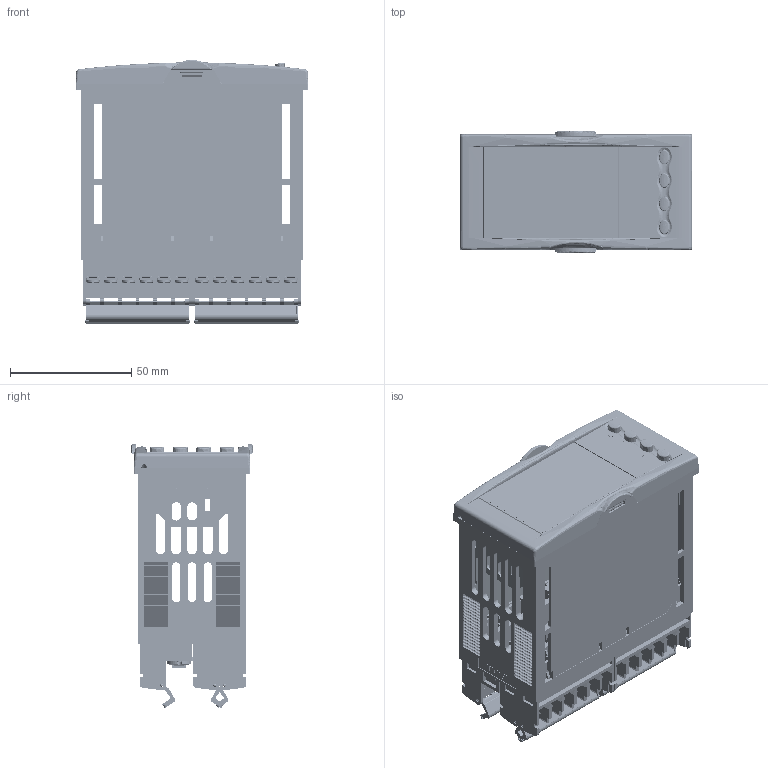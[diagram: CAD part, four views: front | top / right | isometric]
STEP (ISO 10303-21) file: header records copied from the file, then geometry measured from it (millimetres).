
FILE_DESCRIPTION((''),'2;1');
FILE_NAME('3208_IGESFILE','2012-02-27T',('chrisloe'),(''),'PRO/ENGINEER BY PARAMETRIC TECHNOLOGY CORPORATION, 2010180','PRO/ENGINEER BY PARAMETRIC TECHNOLOGY CORPORATION, 2010180','');
FILE_SCHEMA(('CONFIG_CONTROL_DESIGN'));
Products named in the file (1): 3208_IGESFILE
Bounding box: 96.05 x 50 x 108.97 mm (x, y, z)
Volume: 98544.3 mm3; surface area: 144864.4 mm2
Topology: 3 solids, 106 shells, 14638 faces, 40269 edges, 25752 vertices
Faces by surface type: plane 11835, cylinder 2259, cone 263, bspline 117, torus 107, extrusion 50, sphere 7
Entity records: 474740 total; most frequent: CARTESIAN_POINT 108254, ORIENTED_EDGE 80318, DIRECTION 69651, EDGE_CURVE 40241, VECTOR 31707, LINE 31657, VERTEX_POINT 25752, AXIS2_PLACEMENT_3D 18972
